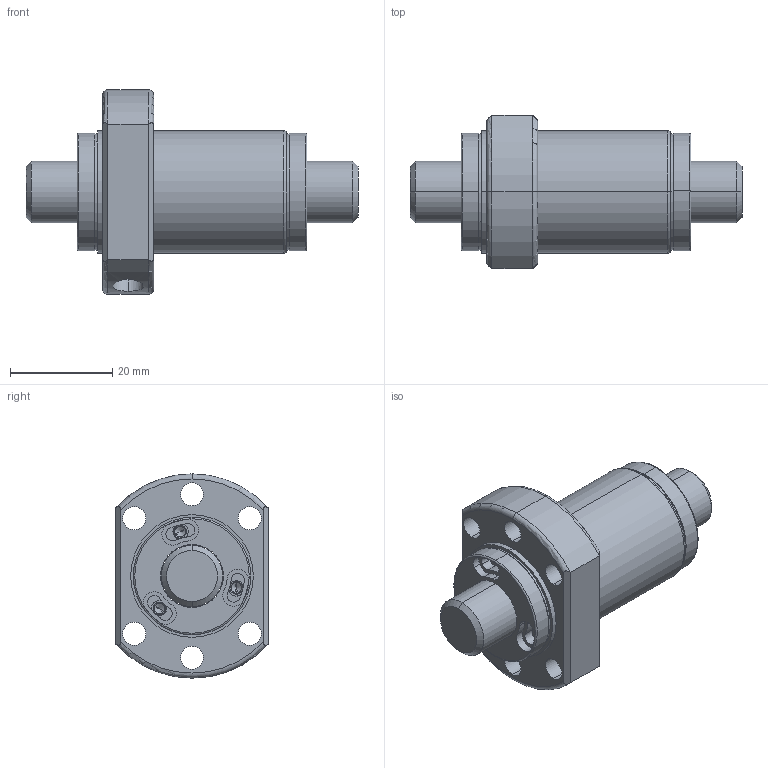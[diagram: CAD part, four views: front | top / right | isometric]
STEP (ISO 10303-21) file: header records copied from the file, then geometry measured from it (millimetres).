
FILE_DESCRIPTION (( 'STEP AP203' ), '1' );
FILE_NAME ('SFHR01210B1D-C.STEP', '2020-06-17T07:52:17', ( '' ), ( '' ), 'SwSTEP 2.0', 'SolidWorks 2013', '' );
FILE_SCHEMA (( 'CONFIG_CONTROL_DESIGN' ));
Length unit declared in the file: millimetre
Products named in the file (1): SFHR01210B1D-C
Bounding box: 65 x 30 x 40 mm (x, y, z)
Volume: 25775.4 mm3; surface area: 11536.5 mm2
Topology: 2 solids, 2 shells, 227 faces, 537 edges, 332 vertices
Faces by surface type: cylinder 129, plane 58, cone 28, torus 12
Entity records: 6876 total; most frequent: DIRECTION 1315, CARTESIAN_POINT 1305, ORIENTED_EDGE 1050, AXIS2_PLACEMENT_3D 574, EDGE_CURVE 525, CIRCLE 346, VERTEX_POINT 332, EDGE_LOOP 273
